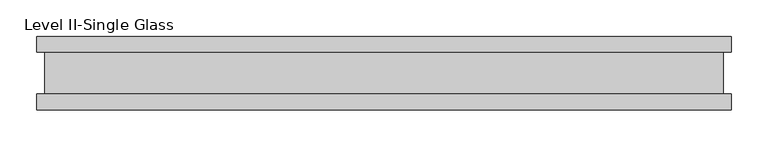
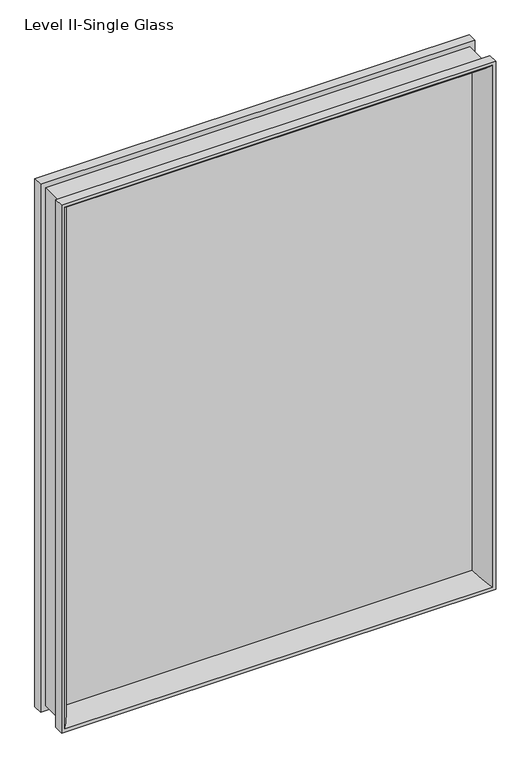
"""IFC4 building model written with IfcOpenShell, lengths in millimetres: proxy geometry, Panel-Fascia-Teknion-Altos-Single_Glass : Level II-Single Glass."""

from ifc_helpers import new_model, si_unit, frame, origin, place, context, project, spatial, polyline, ellipse_curve, outline, extrude, source, transform, mapped, element, save
from ifc_brep_helpers import plane_surface, cylinder_surface, advanced_brep


def level_ii_single_glass_14cafb3b(model_context):
    return source(origin(), model_context, "Body", "SolidModel", [
        advanced_brep(
        [(447.4829676, -5.0827449, 1191.0723332), (447.4829676, -5.0827449, 28.1276668), (465.4378179, -50.0558594, 10.1728164), (465.4378179, -50.0558594, 1209.0271836), (457.9731586, 5.0827449, 1201.5625243), (457.9731586, 5.0827449, 17.6374757), (457.9731586, -5.0827449, 17.6374757), (457.9731586, -5.0827449, 1201.5625243), (465.4378179, 50.0558594, 1209.0271836), (465.4378179, 50.0558594, 10.1728164), (447.4829676, 5.0827449, 28.1276668), (447.4829676, 5.0827449, 1191.0723332), (472.4356344, 28.8801202, 1216.025), (472.4356344, 28.8801202, 3.175), (472.4356344, 50.0558594, 3.175), (472.4356344, 50.0558594, 1216.025), (461.6106344, -28.2698798, 1205.2000001), (461.6106344, -28.2698798, 13.9999999), (461.6106344, 28.8801202, 13.9999999), (461.6106344, 28.8801202, 1205.2000001), (472.4356344, -50.0558594, 1216.025), (472.4356344, -50.0558594, 3.175), (472.4356344, -28.2698798, 3.175), (472.4356344, -28.2698798, 1216.025), (-447.4829676, -5.0827449, 28.1276668), (-465.4378179, -50.0558594, 10.1728164), (-457.9731586, 5.0827449, 17.6374757), (-457.9731586, -5.0827449, 17.6374757), (-465.4378179, 50.0558594, 10.1728164), (-447.4829676, 5.0827449, 28.1276668), (-472.4356344, 28.8801202, 3.175), (-472.4356344, 50.0558594, 3.175), (-461.6106344, -28.2698798, 13.9999999), (-461.6106344, 28.8801202, 13.9999999), (-472.4356344, -50.0558594, 3.175), (-472.4356344, -28.2698798, 3.175), (-447.4829676, -5.0827449, 1191.0723332), (-465.4378179, -50.0558594, 1209.0271836), (-457.9731586, 5.0827449, 1201.5625243), (-457.9731586, -5.0827449, 1201.5625243), (-465.4378179, 50.0558594, 1209.0271836), (-447.4829676, 5.0827449, 1191.0723332), (-472.4356344, 28.8801202, 1216.025), (-472.4356344, 50.0558594, 1216.025), (-461.6106344, -28.2698798, 1205.2000001), (-461.6106344, 28.8801202, 1205.2000001), (-472.4356344, -50.0558594, 1216.025), (-472.4356344, -28.2698798, 1216.025)],
        [
            (0, 1),
            (1, 2, ellipse_curve(frame((499.5692049, -10.3587469, -23.9585705), z_axis=(0.7071067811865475, 0.0, 0.7071067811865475), x_axis=(-0.7071067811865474, 0.0, 0.7071067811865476)), 74.0379946, 52.352768)),
            (2, 3),
            (3, 0, ellipse_curve(frame((499.5692049, -10.3587469, 1243.1585705), z_axis=(0.7071067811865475, 0.0, -0.7071067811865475), x_axis=(0.7071067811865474, 0.0, 0.7071067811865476)), 74.0379946, 52.352768)),
            (4, 5),
            (5, 6),
            (6, 7),
            (7, 4),
            (8, 9),
            (9, 10, ellipse_curve(frame((499.5692049, 10.3587469, -23.9585705), z_axis=(0.7071067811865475, 0.0, 0.7071067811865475), x_axis=(-0.7071067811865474, 0.0, 0.7071067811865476)), 74.0379946, 52.352768)),
            (10, 11),
            (11, 8, ellipse_curve(frame((499.5692049, 10.3587469, 1243.1585705), z_axis=(0.7071067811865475, 0.0, -0.7071067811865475), x_axis=(0.7071067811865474, 0.0, 0.7071067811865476)), 74.0379946, 52.352768)),
            (12, 13),
            (13, 14),
            (14, 15),
            (15, 12),
            (16, 17),
            (17, 18),
            (18, 19),
            (19, 16),
            (20, 21),
            (21, 22),
            (22, 23),
            (23, 20),
            (1, 24),
            (24, 25, ellipse_curve(frame((-499.5692049, -10.3587469, -23.9585705), z_axis=(0.7071067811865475, 0.0, -0.7071067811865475), x_axis=(0.7071067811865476, 0.0, 0.7071067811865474)), 74.0379946, 52.352768)),
            (25, 2),
            (5, 26),
            (26, 27),
            (27, 6),
            (9, 28),
            (28, 29, ellipse_curve(frame((-499.5692049, 10.3587469, -23.9585705), z_axis=(0.7071067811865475, 0.0, -0.7071067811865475), x_axis=(0.7071067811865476, 0.0, 0.7071067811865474)), 74.0379946, 52.352768)),
            (29, 10),
            (13, 30),
            (30, 31),
            (31, 14),
            (17, 32),
            (32, 33),
            (33, 18),
            (21, 34),
            (34, 35),
            (35, 22),
            (24, 36),
            (36, 37, ellipse_curve(frame((-499.5692049, -10.3587469, 1243.1585705), z_axis=(-0.7071067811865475, 0.0, -0.7071067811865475), x_axis=(0.7071067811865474, 0.0, -0.7071067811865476)), 74.0379946, 52.352768)),
            (37, 25),
            (26, 38),
            (38, 39),
            (39, 27),
            (28, 40),
            (40, 41, ellipse_curve(frame((-499.5692049, 10.3587469, 1243.1585705), z_axis=(-0.7071067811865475, 0.0, -0.7071067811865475), x_axis=(0.7071067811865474, 0.0, -0.7071067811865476)), 74.0379946, 52.352768)),
            (41, 29),
            (30, 42),
            (42, 43),
            (43, 31),
            (32, 44),
            (44, 45),
            (45, 33),
            (34, 46),
            (46, 47),
            (47, 35),
            (20, 46),
            (37, 3),
            (36, 0),
            (39, 7),
            (38, 4),
            (41, 11),
            (40, 8),
            (43, 15),
            (42, 12),
            (45, 19),
            (44, 16),
            (47, 23),
        ],
        [
            cylinder_surface(frame((499.5692049, -10.3587469, 1216.025), z_axis=(0.0, 0.0, 1.0), x_axis=(1.0, 0.0, 0.0)), 52.352768),
            plane_surface(frame((457.9731586, -5.0827449, 1201.5625243), z_axis=(-1.0, 0.0, 0.0), x_axis=(0.0, 0.0, -1.0))),
            cylinder_surface(frame((499.5692049, 10.3587469, 1216.025), z_axis=(0.0, 0.0, 1.0), x_axis=(1.0, 0.0, 0.0)), 52.352768),
            plane_surface(frame((472.4356344, 50.0558594, 1216.025), z_axis=(1.0, 0.0, 0.0), x_axis=(0.0, 0.0, -1.0))),
            plane_surface(frame((461.6106344, 28.8801202, 1205.2000001), z_axis=(1.0, 0.0, 0.0), x_axis=(0.0, 0.0, -1.0))),
            plane_surface(frame((472.4356344, -28.2698798, 1216.025), z_axis=(1.0, 0.0, 0.0), x_axis=(0.0, 0.0, -1.0))),
            cylinder_surface(frame((472.4356344, -10.3587469, -23.9585705), z_axis=(1.0, 0.0, 0.0), x_axis=(0.0, 0.0, -1.0)), 52.352768),
            plane_surface(frame((457.9731586, -5.0827449, 17.6374757), z_axis=(0.0, 0.0, 1.0), x_axis=(-1.0, 0.0, 0.0))),
            cylinder_surface(frame((472.4356344, 10.3587469, -23.9585705), z_axis=(1.0, 0.0, 0.0), x_axis=(0.0, 0.0, -1.0)), 52.352768),
            plane_surface(frame((472.4356344, 50.0558594, 3.175), z_axis=(0.0, 0.0, -1.0), x_axis=(-1.0, 0.0, 0.0))),
            plane_surface(frame((461.6106344, 28.8801202, 13.9999999), z_axis=(0.0, 0.0, -1.0), x_axis=(-1.0, 0.0, 0.0))),
            plane_surface(frame((472.4356344, -28.2698798, 3.175), z_axis=(0.0, 0.0, -1.0), x_axis=(-1.0, 0.0, 0.0))),
            cylinder_surface(frame((-499.5692049, -10.3587469, 3.175), z_axis=(0.0, 0.0, -1.0), x_axis=(-1.0, 0.0, 0.0)), 52.352768),
            plane_surface(frame((-457.9731586, -5.0827449, 17.6374757), z_axis=(1.0, 0.0, 0.0), x_axis=(0.0, 0.0, 1.0))),
            cylinder_surface(frame((-499.5692049, 10.3587469, 3.175), z_axis=(0.0, 0.0, -1.0), x_axis=(-1.0, 0.0, 0.0)), 52.352768),
            plane_surface(frame((-472.4356344, 50.0558594, 3.175), z_axis=(-1.0, 0.0, 0.0), x_axis=(0.0, 0.0, 1.0))),
            plane_surface(frame((-461.6106344, 28.8801202, 13.9999999), z_axis=(-1.0, 0.0, 0.0), x_axis=(0.0, 0.0, 1.0))),
            plane_surface(frame((-472.4356344, -28.2698798, 3.175), z_axis=(-1.0, 0.0, 0.0), x_axis=(0.0, 0.0, 1.0))),
            plane_surface(frame((-472.4356344, -50.0558594, 1216.025), z_axis=(0.0, -1.0, 0.0), x_axis=(1.0, 0.0, 0.0))),
            cylinder_surface(frame((-472.4356344, -10.3587469, 1243.1585705), z_axis=(-1.0, 0.0, 0.0), x_axis=(0.0, 0.0, 1.0)), 52.352768),
            plane_surface(frame((-447.4829676, -5.0827449, 1191.0723332), z_axis=(0.0, 1.0, 0.0), x_axis=(1.0, 0.0, 0.0))),
            plane_surface(frame((-457.9731586, -5.0827449, 1201.5625243), z_axis=(0.0, 0.0, -1.0), x_axis=(1.0, 0.0, 0.0))),
            plane_surface(frame((-457.9731586, 5.0827449, 1201.5625243), z_axis=(0.0, -1.0, 0.0), x_axis=(1.0, 0.0, 0.0))),
            cylinder_surface(frame((-472.4356344, 10.3587469, 1243.1585705), z_axis=(-1.0, 0.0, 0.0), x_axis=(0.0, 0.0, 1.0)), 52.352768),
            plane_surface(frame((-465.4378179, 50.0558594, 1209.0271836), z_axis=(0.0, 1.0, 0.0), x_axis=(1.0, 0.0, 0.0))),
            plane_surface(frame((-472.4356344, 50.0558594, 1216.025), z_axis=(0.0, 0.0, 1.0), x_axis=(1.0, 0.0, 0.0))),
            plane_surface(frame((-472.4356344, 28.8801202, 1216.025), z_axis=(0.0, -1.0, 0.0), x_axis=(1.0, 0.0, 0.0))),
            plane_surface(frame((-461.6106344, 28.8801202, 1205.2000001), z_axis=(0.0, 0.0, 1.0), x_axis=(1.0, 0.0, 0.0))),
            plane_surface(frame((-461.6106344, -28.2698798, 1205.2000001), z_axis=(0.0, 1.0, 0.0), x_axis=(1.0, 0.0, 0.0))),
            plane_surface(frame((-472.4356344, -28.2698798, 1216.025), z_axis=(0.0, 0.0, 1.0), x_axis=(1.0, 0.0, 0.0))),
        ],
        [
            (0, [[1, 2, 3, 4]]),
            (1, [[5, 6, 7, 8]]),
            (2, [[9, 10, 11, 12]]),
            (3, [[13, 14, 15, 16]]),
            (4, [[17, 18, 19, 20]]),
            (5, [[21, 22, 23, 24]]),
            (6, [[25, 26, 27, -2]]),
            (7, [[28, 29, 30, -6]]),
            (8, [[31, 32, 33, -10]]),
            (9, [[34, 35, 36, -14]]),
            (10, [[37, 38, 39, -18]]),
            (11, [[40, 41, 42, -22]]),
            (12, [[43, 44, 45, -26]]),
            (13, [[46, 47, 48, -29]]),
            (14, [[49, 50, 51, -32]]),
            (15, [[52, 53, 54, -35]]),
            (16, [[55, 56, 57, -38]]),
            (17, [[58, 59, 60, -41]]),
            (18, [[-21, 61, -58, -40], [-3, -27, -45, 62]]),
            (19, [[63, -4, -62, -44]]),
            (20, [[-7, -30, -48, 64], [-1, -63, -43, -25]]),
            (21, [[65, -8, -64, -47]]),
            (22, [[-5, -65, -46, -28], [-11, -33, -51, 66]]),
            (23, [[67, -12, -66, -50]]),
            (24, [[-15, -36, -54, 68], [-9, -67, -49, -31]]),
            (25, [[69, -16, -68, -53]]),
            (26, [[-13, -69, -52, -34], [-19, -39, -57, 70]]),
            (27, [[71, -20, -70, -56]]),
            (28, [[-23, -42, -60, 72], [-17, -71, -55, -37]]),
            (29, [[-61, -24, -72, -59]]),
        ],
    ),
        extrude(outline(polyline([(457.9731586, -2.9765625), (-457.9731586, -2.9765625), (-457.9731586, 2.9765625), (457.9731586, 2.9765625), (457.9731586, -2.9765625)])), frame((0.0, 0.0, 17.6374757), z_axis=(0.0, 0.0, 1.0), x_axis=(1.0, 0.0, 0.0)), (0.0, 0.0, 1.0), 1183.9250485),
    ])


if __name__ == "__main__":
    model = new_model("IFC4")
    model_context = context("Model", 3, world=origin())
    ifc_project = project(units=[si_unit("LENGTHUNIT", "METRE", prefix="MILLI")], contexts=[model_context])
    site = spatial("IfcSite", under=ifc_project)
    building = spatial("IfcBuilding", under=site)
    placement = place(None, origin())
    level_ii_single_glass_shape = level_ii_single_glass_14cafb3b(model_context)
    element("IfcBuildingElementProxy", 1, Name="Panel-Fascia-Teknion-Altos-Single_Glass : Level II-Single Glass", ObjectType="Panel-Fascia-Teknion-Altos-Single_Glass : Level II-Single Glass", at=placement, inside=building, context=model_context, shape_type="MappedRepresentation", body=[
        mapped(level_ii_single_glass_shape, transform((0.0, 0.0, 0.0), x_axis=(1.0, 0.0, 0.0), y_axis=(0.0, 1.0, 0.0), z_axis=(0.0, 0.0, 1.0))),
    ])
    save(model, "model.ifc")
